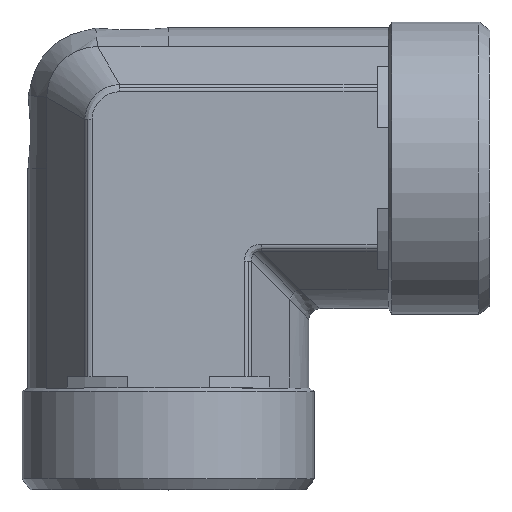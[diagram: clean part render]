
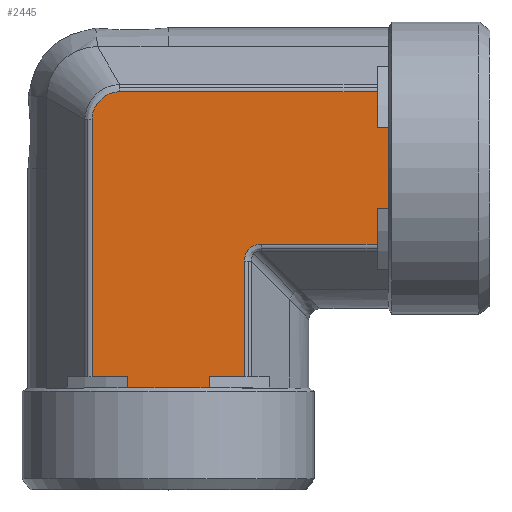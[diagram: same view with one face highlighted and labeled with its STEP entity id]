
A CAD part, top view. The second image highlights one B-rep face of the part: STEP entity #2445.
In plain terms, the highlighted planar face has unit normal (0, 0, 1) as drawn and (0, -1, 0) by its records, which use the part's own axes.
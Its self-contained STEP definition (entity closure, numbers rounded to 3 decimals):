
#361=CARTESIAN_POINT('',(12.027,-24.875,13.496));
#362=VERTEX_POINT('',#361);
#370=CARTESIAN_POINT('',(32.5,-24.875,13.496));
#371=VERTEX_POINT('',#370);
#372=CARTESIAN_POINT('',(12.027,-24.875,13.496));
#373=DIRECTION('',(1.0,0.0,0.0));
#374=VECTOR('',#373,20.473);
#375=LINE('',#372,#374);
#376=EDGE_CURVE('',#362,#371,#375,.T.);
#485=CARTESIAN_POINT('',(-17.996,-24.875,-8.614));
#486=VERTEX_POINT('',#485);
#494=CARTESIAN_POINT('',(-17.996,-24.875,37.));
#495=VERTEX_POINT('',#494);
#496=CARTESIAN_POINT('',(-17.996,-24.875,-8.614));
#497=DIRECTION('',(0.0,0.0,1.0));
#498=VECTOR('',#497,45.614);
#499=LINE('',#496,#498);
#500=EDGE_CURVE('',#486,#495,#499,.T.);
#692=CARTESIAN_POINT('',(34.5,-24.875,0.));
#693=VERTEX_POINT('',#692);
#1891=CARTESIAN_POINT('',(8.996,-24.875,37.));
#1892=VERTEX_POINT('',#1891);
#1893=CARTESIAN_POINT('',(2.75,-24.875,37.));
#1894=VERTEX_POINT('',#1893);
#1895=CARTESIAN_POINT('',(8.996,-24.875,37.));
#1896=DIRECTION('',(-1.0,0.0,0.0));
#1897=VECTOR('',#1896,6.246);
#1898=LINE('',#1895,#1897);
#1899=EDGE_CURVE('',#1892,#1894,#1898,.T.);
#1950=CARTESIAN_POINT('',(-11.75,-24.875,37.));
#1951=VERTEX_POINT('',#1950);
#1952=CARTESIAN_POINT('',(-11.75,-24.875,37.));
#1953=DIRECTION('',(-1.0,0.0,0.0));
#1954=VECTOR('',#1953,6.246);
#1955=LINE('',#1952,#1954);
#1956=EDGE_CURVE('',#1951,#495,#1955,.T.);
#2014=CARTESIAN_POINT('',(-11.75,-24.875,39.0));
#2015=VERTEX_POINT('',#2014);
#2016=CARTESIAN_POINT('',(-11.75,-24.875,39.0));
#2017=DIRECTION('',(0.0,0.0,-1.0));
#2018=VECTOR('',#2017,2.);
#2019=LINE('',#2016,#2018);
#2020=EDGE_CURVE('',#2015,#1951,#2019,.T.);
#2037=CARTESIAN_POINT('',(2.75,-24.875,39.0));
#2038=VERTEX_POINT('',#2037);
#2039=CARTESIAN_POINT('',(2.75,-24.875,37.));
#2040=DIRECTION('',(0.0,0.0,1.0));
#2041=VECTOR('',#2040,2.);
#2042=LINE('',#2039,#2041);
#2043=EDGE_CURVE('',#1894,#2038,#2042,.T.);
#2319=CARTESIAN_POINT('',(-4.5,-24.875,39.0));
#2320=VERTEX_POINT('',#2319);
#2321=CARTESIAN_POINT('',(-4.5,-24.875,39.0));
#2322=DIRECTION('',(-1.0,0.0,0.0));
#2323=VECTOR('',#2322,7.25);
#2324=LINE('',#2321,#2323);
#2325=EDGE_CURVE('',#2320,#2015,#2324,.T.);
#2343=CARTESIAN_POINT('',(-4.5,-24.875,-3.175));
#2344=DIRECTION('',(0.0,-1.0,0.0));
#2345=DIRECTION('',(0.0,0.0,-1.0));
#2346=AXIS2_PLACEMENT_3D('',#2343,#2344,#2345);
#2347=PLANE('',#2346);
#2348=ORIENTED_EDGE('',*,*,#2020,.T.);
#2349=ORIENTED_EDGE('',*,*,#1956,.T.);
#2350=ORIENTED_EDGE('',*,*,#500,.F.);
#2351=CARTESIAN_POINT('',(-13.114,-24.875,-13.496));
#2352=VERTEX_POINT('',#2351);
#2353=CARTESIAN_POINT('',(-17.996,-24.875,-8.614));
#2354=CARTESIAN_POINT('',(-17.996,-24.875,-8.931));
#2355=CARTESIAN_POINT('',(-17.964,-24.875,-9.252));
#2356=CARTESIAN_POINT('',(-17.798,-24.875,-10.069));
#2357=CARTESIAN_POINT('',(-17.618,-24.875,-10.55));
#2358=CARTESIAN_POINT('',(-16.964,-24.875,-11.711));
#2359=CARTESIAN_POINT('',(-16.383,-24.875,-12.319));
#2360=CARTESIAN_POINT('',(-14.915,-24.875,-13.236));
#2361=CARTESIAN_POINT('',(-14.016,-24.875,-13.496));
#2362=CARTESIAN_POINT('',(-13.114,-24.875,-13.496));
#2363=B_SPLINE_CURVE_WITH_KNOTS('',3,(#2353,#2354,#2355,#2356,#2357,#2358,#2359,#2360,#2361,#2362),.UNSPECIFIED.,.F.,.U.,(4,2,2,2,4),(-7.622,-6.669,-5.145,-2.706,0.0),.UNSPECIFIED.);
#2364=EDGE_CURVE('',#2352,#486,#2363,.F.);
#2365=ORIENTED_EDGE('',*,*,#2364,.F.);
#2366=CARTESIAN_POINT('',(32.5,-24.875,-13.496));
#2367=VERTEX_POINT('',#2366);
#2368=CARTESIAN_POINT('',(32.5,-24.875,-13.496));
#2369=DIRECTION('',(-1.0,0.0,0.0));
#2370=VECTOR('',#2369,45.614);
#2371=LINE('',#2368,#2370);
#2372=EDGE_CURVE('',#2367,#2352,#2371,.T.);
#2373=ORIENTED_EDGE('',*,*,#2372,.F.);
#2374=CARTESIAN_POINT('',(32.5,-24.875,-7.25));
#2375=VERTEX_POINT('',#2374);
#2376=CARTESIAN_POINT('',(32.5,-24.875,-13.496));
#2377=DIRECTION('',(0.0,0.0,1.0));
#2378=VECTOR('',#2377,6.246);
#2379=LINE('',#2376,#2378);
#2380=EDGE_CURVE('',#2367,#2375,#2379,.T.);
#2381=ORIENTED_EDGE('',*,*,#2380,.T.);
#2382=CARTESIAN_POINT('',(34.5,-24.875,-7.25));
#2383=VERTEX_POINT('',#2382);
#2384=CARTESIAN_POINT('',(32.5,-24.875,-7.25));
#2385=DIRECTION('',(1.0,0.0,0.0));
#2386=VECTOR('',#2385,2.0);
#2387=LINE('',#2384,#2386);
#2388=EDGE_CURVE('',#2375,#2383,#2387,.T.);
#2389=ORIENTED_EDGE('',*,*,#2388,.T.);
#2390=CARTESIAN_POINT('',(34.5,-24.875,-7.25));
#2391=DIRECTION('',(0.0,0.0,1.0));
#2392=VECTOR('',#2391,7.25);
#2393=LINE('',#2390,#2392);
#2394=EDGE_CURVE('',#2383,#693,#2393,.T.);
#2395=ORIENTED_EDGE('',*,*,#2394,.T.);
#2396=CARTESIAN_POINT('',(34.5,-24.875,7.25));
#2397=VERTEX_POINT('',#2396);
#2398=CARTESIAN_POINT('',(34.5,-24.875,0.));
#2399=DIRECTION('',(0.0,0.0,1.0));
#2400=VECTOR('',#2399,7.25);
#2401=LINE('',#2398,#2400);
#2402=EDGE_CURVE('',#693,#2397,#2401,.T.);
#2403=ORIENTED_EDGE('',*,*,#2402,.T.);
#2404=CARTESIAN_POINT('',(32.5,-24.875,7.25));
#2405=VERTEX_POINT('',#2404);
#2406=CARTESIAN_POINT('',(34.5,-24.875,7.25));
#2407=DIRECTION('',(-1.0,0.0,0.0));
#2408=VECTOR('',#2407,2.0);
#2409=LINE('',#2406,#2408);
#2410=EDGE_CURVE('',#2397,#2405,#2409,.T.);
#2411=ORIENTED_EDGE('',*,*,#2410,.T.);
#2412=CARTESIAN_POINT('',(32.5,-24.875,7.25));
#2413=DIRECTION('',(0.0,0.0,1.0));
#2414=VECTOR('',#2413,6.246);
#2415=LINE('',#2412,#2414);
#2416=EDGE_CURVE('',#2405,#371,#2415,.T.);
#2417=ORIENTED_EDGE('',*,*,#2416,.T.);
#2418=ORIENTED_EDGE('',*,*,#376,.F.);
#2419=CARTESIAN_POINT('',(8.996,-24.875,16.527));
#2420=VERTEX_POINT('',#2419);
#2421=CARTESIAN_POINT('',(13.037,-24.875,17.537));
#2422=DIRECTION('',(0.,-1.,0.));
#2423=DIRECTION('',(-0.707,0.,-0.707));
#2424=AXIS2_PLACEMENT_3D('',#2421,#2422,#2423);
#2425=ELLIPSE('',#2424,4.518,3.5);
#2426=EDGE_CURVE('',#2420,#362,#2425,.T.);
#2427=ORIENTED_EDGE('',*,*,#2426,.F.);
#2428=CARTESIAN_POINT('',(8.996,-24.875,37.));
#2429=DIRECTION('',(0.0,0.0,-1.0));
#2430=VECTOR('',#2429,20.473);
#2431=LINE('',#2428,#2430);
#2432=EDGE_CURVE('',#1892,#2420,#2431,.T.);
#2433=ORIENTED_EDGE('',*,*,#2432,.F.);
#2434=ORIENTED_EDGE('',*,*,#1899,.T.);
#2435=ORIENTED_EDGE('',*,*,#2043,.T.);
#2436=CARTESIAN_POINT('',(2.75,-24.875,39.0));
#2437=DIRECTION('',(-1.0,0.0,0.0));
#2438=VECTOR('',#2437,7.25);
#2439=LINE('',#2436,#2438);
#2440=EDGE_CURVE('',#2038,#2320,#2439,.T.);
#2441=ORIENTED_EDGE('',*,*,#2440,.T.);
#2442=ORIENTED_EDGE('',*,*,#2325,.T.);
#2443=EDGE_LOOP('',(#2348,#2349,#2350,#2365,#2373,#2381,#2389,#2395,#2403,#2411,#2417,#2418,#2427,#2433,#2434,#2435,#2441,#2442));
#2444=FACE_OUTER_BOUND('',#2443,.T.);
#2445=ADVANCED_FACE('',(#2444),#2347,.T.);
